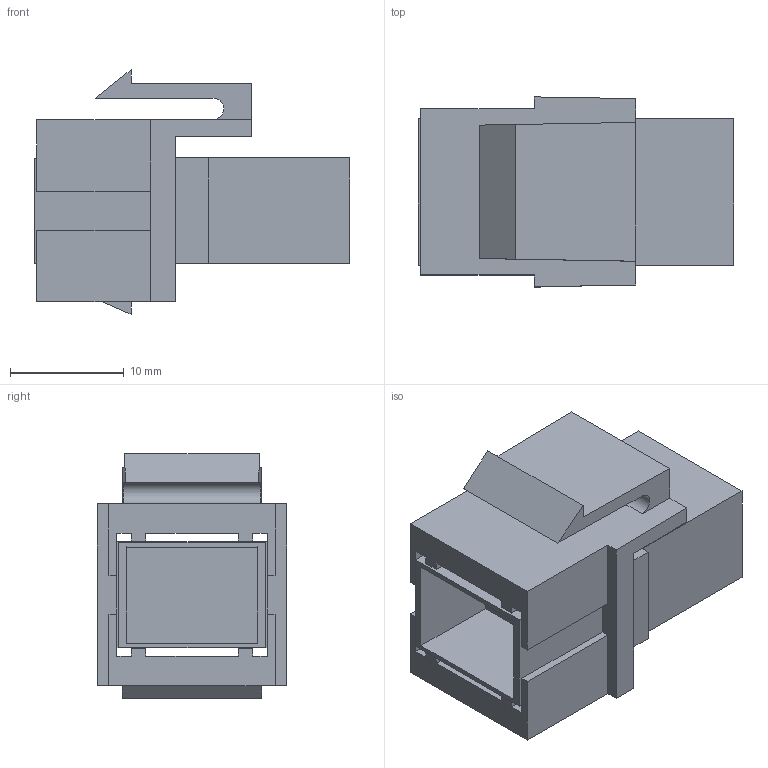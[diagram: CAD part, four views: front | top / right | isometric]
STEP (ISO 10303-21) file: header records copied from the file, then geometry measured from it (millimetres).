
FILE_DESCRIPTION(('FreeCAD Model'),'2;1');
FILE_NAME('Open CASCADE Shape Model','2026-04-17T12:40:57',(''),(''), 'Open CASCADE STEP processor 7.8','FreeCAD','Unknown');
FILE_SCHEMA(('AUTOMOTIVE_DESIGN { 1 0 10303 214 1 1 1 1 }'));
Length unit declared in the file: millimetre
Products named in the file (1): Body
Bounding box: 27.7 x 16.69 x 21.49 mm (x, y, z)
Volume: 3418.9 mm3; surface area: 4332.1 mm2
Topology: 1 solids, 1 shells, 74 faces, 214 edges, 142 vertices
Faces by surface type: bspline 64, plane 10
Entity records: 3034 total; most frequent: CARTESIAN_POINT 1624, ORIENTED_EDGE 428, EDGE_CURVE 214, B_SPLINE_CURVE_WITH_KNOTS 189, VERTEX_POINT 142, FACE_BOUND 78, EDGE_LOOP 78, ADVANCED_FACE 74
